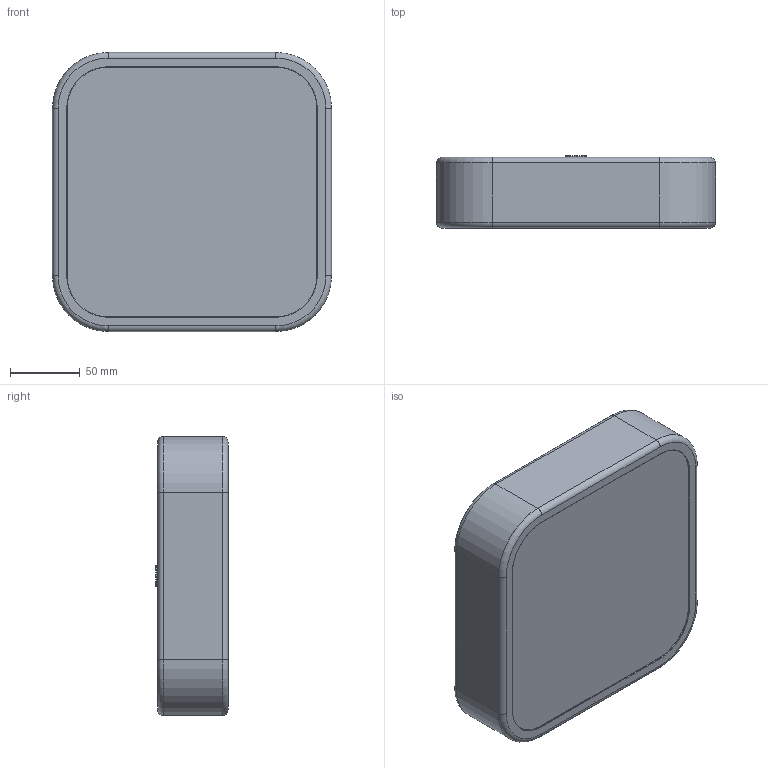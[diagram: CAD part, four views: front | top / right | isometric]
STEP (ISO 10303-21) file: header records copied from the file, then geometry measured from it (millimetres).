
FILE_DESCRIPTION((''),'2;1');
FILE_NAME('KL-S200-18W-BK_ASM','2026-03-18T15:37:21',('Administrator'),(''),'CREO PARAMETRIC BY PTC INC, 2021164','CREO PARAMETRIC BY PTC INC, 2021164','');
FILE_SCHEMA(('CONFIG_CONTROL_DESIGN','SHAPE_APPEARANCE_LAYERS_GROUPS'));
Length unit declared in the file: millimetre
Products named in the file (4): PRT0001_13; PRT0002_2; ASM0001_ASM_8_ASM; KL-S200-18W-BK_ASM
Assembly tree (3 placements, depth 3):
  KL-S200-18W-BK_ASM
    ASM0001_ASM_8_ASM
      PRT0001_13
      PRT0002_2
Bounding box: 200 x 51.7 x 200 mm (x, y, z)
Volume: 107107.6 mm3; surface area: 230158.8 mm2
Topology: 2 solids, 2 shells, 127 faces, 304 edges, 178 vertices
Faces by surface type: cylinder 56, plane 33, torus 22, sphere 8, bspline 8
Entity records: 5700 total; most frequent: CARTESIAN_POINT 826, DIRECTION 720, ORIENTED_EDGE 592, PRESENTATION_STYLE_ASSIGNMENT 415, STYLED_ITEM 415, AXIS2_PLACEMENT_3D 296, CURVE_STYLE 296, EDGE_CURVE 296
